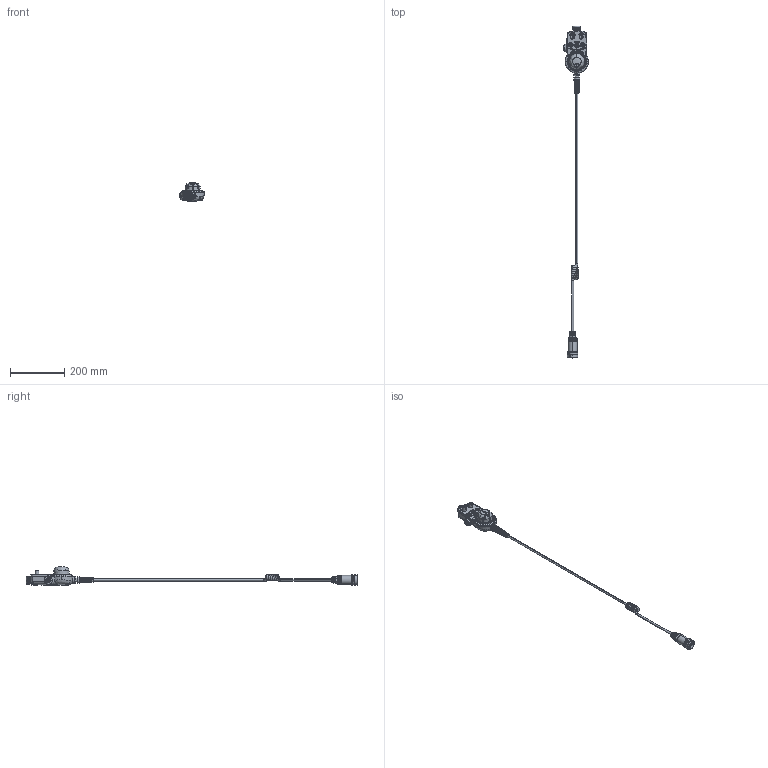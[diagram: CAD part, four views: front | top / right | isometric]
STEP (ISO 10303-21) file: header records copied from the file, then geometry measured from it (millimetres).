
FILE_DESCRIPTION(('STEP AP214'),'1');
FILE_NAME('C:/TPO v2/SharedFS/Outgoing/euchner_072936.stp','2016-06-24T08:25:41',('TraceParts'),('TraceParts S.A.'),'Spatial InterOp 3D',' ',' ');
FILE_SCHEMA(('automotive_design'));
Length unit declared in the file: millimetre
Products named in the file (21): 1; 2; 3; 4; 5; 6; 7; 8; 9; 10; 11; 12; 13; 14; 15; 16; 17; 18; 19; 20; 21
Bounding box: 90.95 x 1218.65 x 67.41 mm (x, y, z)
Volume: 585842 mm3; surface area: 176395.3 mm2
Topology: 21 solids, 22 shells, 4230 faces, 10722 edges, 6833 vertices
Faces by surface type: plane 1917, cylinder 1512, bspline 516, cone 255, revolution 24, torus 6
Entity records: 230224 total; most frequent: CARTESIAN_POINT 95507, ORIENTED_EDGE 21388, DIRECTION 20643, EDGE_CURVE 10694, AXIS2_PLACEMENT_3D 7771, VERTEX_POINT 6833, LINE 5077, VECTOR 5077
